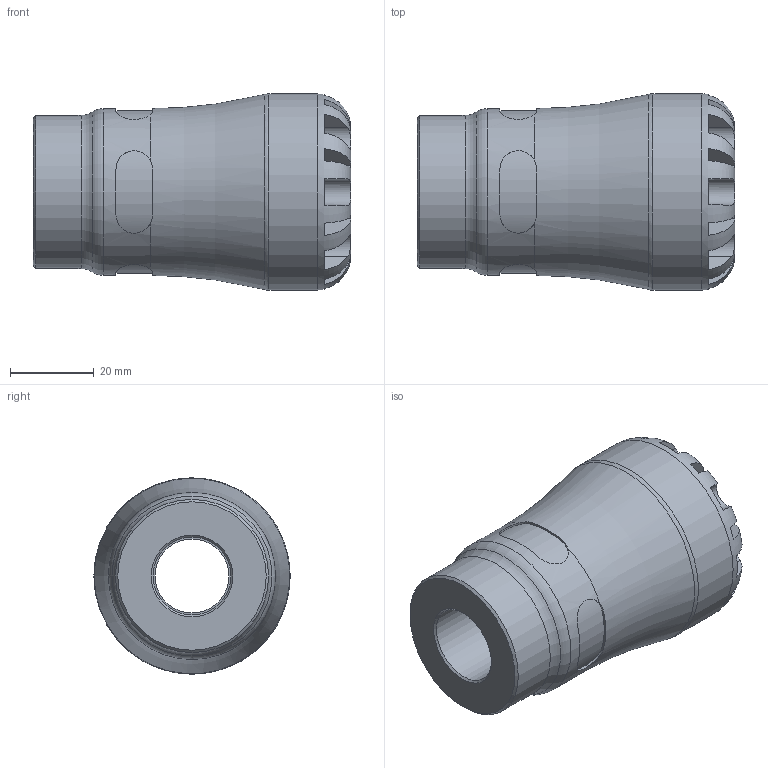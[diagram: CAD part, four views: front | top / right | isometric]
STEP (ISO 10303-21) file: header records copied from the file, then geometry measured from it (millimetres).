
FILE_DESCRIPTION(/* description */ ('PLASSON FEMALE INTEGRAL BRASS THREAD 25X1/2" SERIES 1'),/* implementation_level */ '2;1');
FILE_NAME(/* name */ 'C:\Dropbox\KIMPROJECTS-Inventor\99-16-3568-Processing\1073\107300025005_197300025005.ipt.stp',/* time_stamp */ '2017-01-22T11:35:22+02:00',/* author */ ('KIM'),/* organization */ (''),/* preprocessor_version */ 'ST-DEVELOPER v15.6',/* originating_system */ 'Autodesk Inventor 2015',/* authorisation */ '');
FILE_SCHEMA (('AUTOMOTIVE_DESIGN { 1 0 10303 214 3 1 1 }'));
Length unit declared in the file: millimetre
Products named in the file (1): 107300025005_197300025005
Bounding box: 76 x 47 x 47 mm (x, y, z)
Volume: 70893.3 mm3; surface area: 18490.9 mm2
Topology: 1 solids, 1 shells, 104 faces, 265 edges, 166 vertices
Faces by surface type: plane 61, cylinder 35, torus 5, cone 3
Full cylindrical faces by diameter (mm): 17.699 x1, 18.631 x1, 20.833 x1, 25 x1, 36.66 x1, 39.95 x1, 47 x1
Entity records: 3894 total; most frequent: CARTESIAN_POINT 1507, ORIENTED_EDGE 492, DIRECTION 478, EDGE_CURVE 246, AXIS2_PLACEMENT_3D 199, VERTEX_POINT 162, EDGE_LOOP 124, FACE_OUTER_BOUND 104
